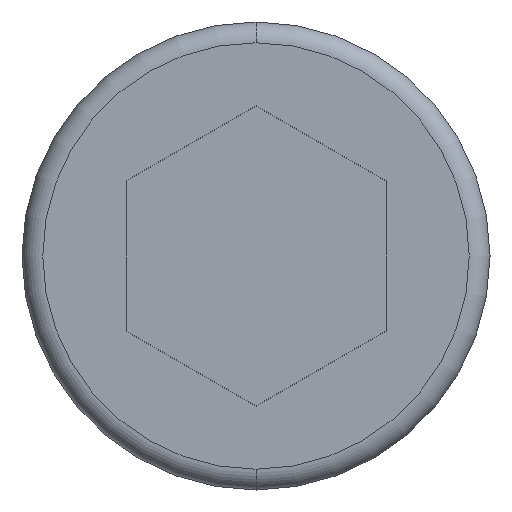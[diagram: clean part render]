
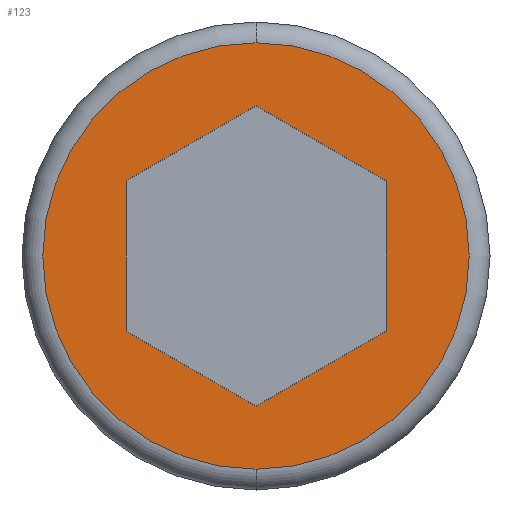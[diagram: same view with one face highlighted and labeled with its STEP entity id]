
A CAD part, front view. The second image highlights one B-rep face of the part: STEP entity #123.
In plain terms, the highlighted planar face has unit normal (0, -1, 0).
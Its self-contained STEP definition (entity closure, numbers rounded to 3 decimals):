
#12 = CARTESIAN_POINT ( 'NONE',  ( 5., -12., -2.887 ) ) ;
#23 = EDGE_CURVE ( 'NONE', #506, #767, #322, .T. ) ;
#25 = DIRECTION ( 'NONE',  ( 0., 0., -1. ) ) ;
#32 = AXIS2_PLACEMENT_3D ( 'NONE', #617, #683, #219 ) ;
#38 = EDGE_LOOP ( 'NONE', ( #140, #64 ) ) ;
#50 = LINE ( 'NONE', #12, #688 ) ;
#57 = DIRECTION ( 'NONE',  ( 0., -1., 0. ) ) ;
#58 = EDGE_CURVE ( 'NONE', #767, #126, #50, .T. ) ;
#64 = ORIENTED_EDGE ( 'NONE', *, *, #152, .T. ) ;
#81 = CARTESIAN_POINT ( 'NONE',  ( -5., -12., -2.887 ) ) ;
#89 = CARTESIAN_POINT ( 'NONE',  ( 0., -12., 0. ) ) ;
#97 = CIRCLE ( 'NONE', #234, 8.2 ) ;
#108 = CARTESIAN_POINT ( 'NONE',  ( 0., -12., -5.774 ) ) ;
#111 = EDGE_CURVE ( 'NONE', #126, #580, #748, .T. ) ;
#123 = ADVANCED_FACE ( 'NONE', ( #569, #455 ), #346, .T. ) ;
#126 = VERTEX_POINT ( 'NONE', #337 ) ;
#135 = VECTOR ( 'NONE', #549, 1000. ) ;
#140 = ORIENTED_EDGE ( 'NONE', *, *, #581, .T. ) ;
#141 = CARTESIAN_POINT ( 'NONE',  ( 5., -12., 2.887 ) ) ;
#150 = VERTEX_POINT ( 'NONE', #81 ) ;
#152 = EDGE_CURVE ( 'NONE', #424, #752, #305, .T. ) ;
#153 = CARTESIAN_POINT ( 'NONE',  ( 0., -12., 5.774 ) ) ;
#178 = VECTOR ( 'NONE', #678, 1000. ) ;
#185 = CARTESIAN_POINT ( 'NONE',  ( 0., -12., 5.774 ) ) ;
#208 = LINE ( 'NONE', #563, #178 ) ;
#212 = EDGE_CURVE ( 'NONE', #580, #281, #264, .T. ) ;
#219 = DIRECTION ( 'NONE',  ( 0., 0., -1. ) ) ;
#234 = AXIS2_PLACEMENT_3D ( 'NONE', #430, #57, #317 ) ;
#235 = CARTESIAN_POINT ( 'NONE',  ( -5., -12., 2.887 ) ) ;
#249 = CARTESIAN_POINT ( 'NONE',  ( 0., -12., 8.2 ) ) ;
#261 = AXIS2_PLACEMENT_3D ( 'NONE', #89, #398, #741 ) ;
#263 = CARTESIAN_POINT ( 'NONE',  ( -5., -12., 2.887 ) ) ;
#264 = LINE ( 'NONE', #153, #342 ) ;
#281 = VERTEX_POINT ( 'NONE', #235 ) ;
#293 = CARTESIAN_POINT ( 'NONE',  ( 0., -12., -8.2 ) ) ;
#305 = CIRCLE ( 'NONE', #32, 8.2 ) ;
#317 = DIRECTION ( 'NONE',  ( 0., 0., -1. ) ) ;
#318 = DIRECTION ( 'NONE',  ( 0.866, 0., 0.5 ) ) ;
#322 = LINE ( 'NONE', #473, #733 ) ;
#337 = CARTESIAN_POINT ( 'NONE',  ( 5., -12., 2.887 ) ) ;
#342 = VECTOR ( 'NONE', #613, 1000. ) ;
#346 = PLANE ( 'NONE',  #261 ) ;
#358 = LINE ( 'NONE', #263, #571 ) ;
#398 = DIRECTION ( 'NONE',  ( 0., -1., 0. ) ) ;
#424 = VERTEX_POINT ( 'NONE', #249 ) ;
#430 = CARTESIAN_POINT ( 'NONE',  ( 0., -12., 0. ) ) ;
#455 = FACE_BOUND ( 'NONE', #667, .T. ) ;
#462 = EDGE_CURVE ( 'NONE', #150, #506, #208, .T. ) ;
#469 = ORIENTED_EDGE ( 'NONE', *, *, #544, .F. ) ;
#473 = CARTESIAN_POINT ( 'NONE',  ( 0., -12., -5.774 ) ) ;
#506 = VERTEX_POINT ( 'NONE', #108 ) ;
#509 = CARTESIAN_POINT ( 'NONE',  ( 5., -12., -2.887 ) ) ;
#542 = DIRECTION ( 'NONE',  ( 0., 0., 1. ) ) ;
#544 = EDGE_CURVE ( 'NONE', #281, #150, #358, .T. ) ;
#549 = DIRECTION ( 'NONE',  ( -0.866, 0., 0.5 ) ) ;
#557 = ORIENTED_EDGE ( 'NONE', *, *, #462, .F. ) ;
#563 = CARTESIAN_POINT ( 'NONE',  ( -5., -12., -2.887 ) ) ;
#569 = FACE_OUTER_BOUND ( 'NONE', #38, .T. ) ;
#571 = VECTOR ( 'NONE', #25, 1000. ) ;
#580 = VERTEX_POINT ( 'NONE', #185 ) ;
#581 = EDGE_CURVE ( 'NONE', #752, #424, #97, .T. ) ;
#613 = DIRECTION ( 'NONE',  ( -0.866, 0., -0.5 ) ) ;
#617 = CARTESIAN_POINT ( 'NONE',  ( 0., -12., 0. ) ) ;
#631 = ORIENTED_EDGE ( 'NONE', *, *, #212, .F. ) ;
#647 = ORIENTED_EDGE ( 'NONE', *, *, #111, .F. ) ;
#667 = EDGE_LOOP ( 'NONE', ( #763, #681, #557, #469, #631, #647 ) ) ;
#678 = DIRECTION ( 'NONE',  ( 0.866, 0., -0.5 ) ) ;
#681 = ORIENTED_EDGE ( 'NONE', *, *, #23, .F. ) ;
#683 = DIRECTION ( 'NONE',  ( 0., -1., 0. ) ) ;
#688 = VECTOR ( 'NONE', #542, 1000. ) ;
#733 = VECTOR ( 'NONE', #318, 1000. ) ;
#741 = DIRECTION ( 'NONE',  ( 0., 0., -1. ) ) ;
#748 = LINE ( 'NONE', #141, #135 ) ;
#752 = VERTEX_POINT ( 'NONE', #293 ) ;
#763 = ORIENTED_EDGE ( 'NONE', *, *, #58, .F. ) ;
#767 = VERTEX_POINT ( 'NONE', #509 ) ;
